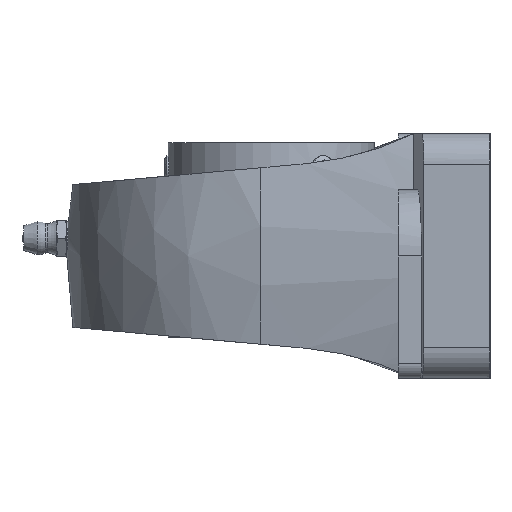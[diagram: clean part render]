
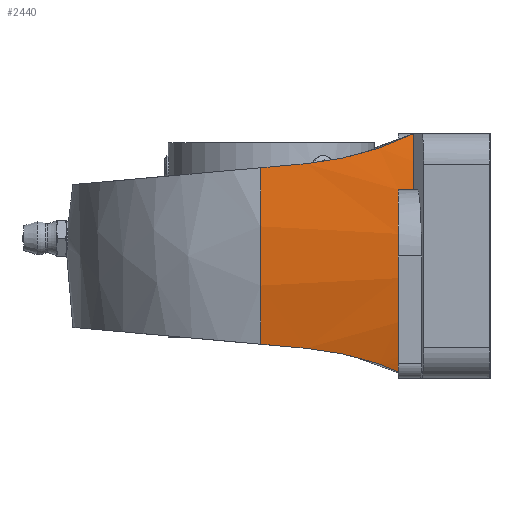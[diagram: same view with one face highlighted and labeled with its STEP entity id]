
A CAD part, left-side view. The second image highlights one B-rep face of the part: STEP entity #2440.
In plain terms, the highlighted cylindrical face has radius 83 mm (diameter 166 mm), a partial arc.
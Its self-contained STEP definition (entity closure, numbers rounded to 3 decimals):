
#83=ELLIPSE('',#2663,83.12,83.);
#94=ELLIPSE('',#2698,929.281,83.);
#97=ELLIPSE('',#2703,929.281,83.);
#100=ELLIPSE('',#2714,83.12,83.);
#101=ELLIPSE('',#2716,83.12,83.);
#128=B_SPLINE_CURVE_WITH_KNOTS('',3,(#4615,#4616,#4617,#4618,#4619,#4620,
#4621,#4622,#4623,#4624),.UNSPECIFIED.,.F.,.F.,(4,2,2,2,4),(3.804,
4.041,4.824,5.606,5.864),
 .UNSPECIFIED.);
#131=B_SPLINE_CURVE_WITH_KNOTS('',3,(#4783,#4784,#4785,#4786,#4787,#4788,
#4789,#4790,#4791,#4792),.UNSPECIFIED.,.F.,.F.,(4,2,2,2,4),(6.061,
6.318,7.101,7.883,8.12),
 .UNSPECIFIED.);
#173=CYLINDRICAL_SURFACE('',#2713,83.);
#270=FACE_OUTER_BOUND('',#410,.T.);
#410=EDGE_LOOP('',(#1892,#1893,#1894,#1895,#1896,#1897,#1898,#1899,#1900,
#1901));
#585=LINE('',#4708,#751);
#600=LINE('',#4843,#766);
#751=VECTOR('',#3136,10.);
#766=VECTOR('',#3197,10.);
#864=CIRCLE('',#2715,83.);
#973=VERTEX_POINT('',#3661);
#979=VERTEX_POINT('',#3681);
#1019=VERTEX_POINT('',#4613);
#1026=VERTEX_POINT('',#4641);
#1027=VERTEX_POINT('',#4643);
#1050=VERTEX_POINT('',#4707);
#1057=VERTEX_POINT('',#4739);
#1058=VERTEX_POINT('',#4741);
#1063=VERTEX_POINT('',#4815);
#1065=VERTEX_POINT('',#4841);
#1293=EDGE_CURVE('',#979,#1019,#128,.T.);
#1302=EDGE_CURVE('',#1027,#1026,#83,.T.);
#1335=EDGE_CURVE('',#1050,#1027,#585,.T.);
#1352=EDGE_CURVE('',#1058,#1057,#94,.T.);
#1356=EDGE_CURVE('',#1057,#973,#131,.T.);
#1360=EDGE_CURVE('',#1019,#1063,#97,.T.);
#1364=EDGE_CURVE('',#1026,#1065,#600,.T.);
#1371=EDGE_CURVE('',#1065,#979,#100,.T.);
#1372=EDGE_CURVE('',#1058,#1063,#864,.T.);
#1373=EDGE_CURVE('',#973,#1050,#101,.T.);
#1892=ORIENTED_EDGE('',*,*,#1335,.T.);
#1893=ORIENTED_EDGE('',*,*,#1302,.T.);
#1894=ORIENTED_EDGE('',*,*,#1364,.T.);
#1895=ORIENTED_EDGE('',*,*,#1371,.T.);
#1896=ORIENTED_EDGE('',*,*,#1293,.T.);
#1897=ORIENTED_EDGE('',*,*,#1360,.T.);
#1898=ORIENTED_EDGE('',*,*,#1372,.F.);
#1899=ORIENTED_EDGE('',*,*,#1352,.T.);
#1900=ORIENTED_EDGE('',*,*,#1356,.T.);
#1901=ORIENTED_EDGE('',*,*,#1373,.T.);
#2440=ADVANCED_FACE('',(#270),#173,.T.);
#2663=AXIS2_PLACEMENT_3D('',#4644,#3074,#3075);
#2698=AXIS2_PLACEMENT_3D('',#4742,#3176,#3177);
#2703=AXIS2_PLACEMENT_3D('',#4834,#3186,#3187);
#2713=AXIS2_PLACEMENT_3D('',#4855,#3214,#3215);
#2714=AXIS2_PLACEMENT_3D('',#4856,#3216,#3217);
#2715=AXIS2_PLACEMENT_3D('',#4857,#3218,#3219);
#2716=AXIS2_PLACEMENT_3D('',#4858,#3220,#3221);
#3074=DIRECTION('center_axis',(0.,1.,0.));
#3075=DIRECTION('ref_axis',(1.,0.,0.));
#3136=DIRECTION('',(0.054,0.999,0.));
#3176=DIRECTION('center_axis',(0.,-0.089,0.996));
#3177=DIRECTION('ref_axis',(0.054,0.995,0.089));
#3186=DIRECTION('center_axis',(0.,-0.089,-0.996));
#3187=DIRECTION('ref_axis',(-0.054,-0.995,0.089));
#3197=DIRECTION('',(-0.054,-0.999,0.));
#3214=DIRECTION('center_axis',(-0.054,-0.999,0.));
#3215=DIRECTION('ref_axis',(0.956,-0.052,0.289));
#3216=DIRECTION('center_axis',(0.,1.,0.));
#3217=DIRECTION('ref_axis',(1.,0.,0.));
#3218=DIRECTION('center_axis',(0.054,0.999,0.));
#3219=DIRECTION('ref_axis',(0.956,-0.052,0.289));
#3220=DIRECTION('center_axis',(0.,1.,0.));
#3221=DIRECTION('ref_axis',(1.,0.,0.));
#3661=CARTESIAN_POINT('',(-38.111,-27.9,-24.));
#3681=CARTESIAN_POINT('',(-38.111,-27.9,24.));
#4613=CARTESIAN_POINT('',(-38.524,-6.844,18.109));
#4615=CARTESIAN_POINT('Ctrl Pts',(-38.111,-27.9,24.));
#4616=CARTESIAN_POINT('Ctrl Pts',(-38.181,-27.161,23.637));
#4617=CARTESIAN_POINT('Ctrl Pts',(-38.243,-26.408,23.287));
#4618=CARTESIAN_POINT('Ctrl Pts',(-38.483,-23.119,21.84));
#4619=CARTESIAN_POINT('Ctrl Pts',(-38.591,-20.465,20.883));
#4620=CARTESIAN_POINT('Ctrl Pts',(-38.681,-15.048,19.356));
#4621=CARTESIAN_POINT('Ctrl Pts',(-38.664,-12.281,18.785));
#4622=CARTESIAN_POINT('Ctrl Pts',(-38.58,-8.637,18.29));
#4623=CARTESIAN_POINT('Ctrl Pts',(-38.555,-7.738,18.189));
#4624=CARTESIAN_POINT('Ctrl Pts',(-38.524,-6.844,18.109));
#4641=CARTESIAN_POINT('',(-40.474,-24.9,13.));
#4643=CARTESIAN_POINT('',(-40.474,-24.9,-13.));
#4644=CARTESIAN_POINT('Origin',(41.62,-24.9,0.));
#4707=CARTESIAN_POINT('',(-40.636,-27.9,-13.));
#4708=CARTESIAN_POINT('',(-39.019,2.103,-13.));
#4739=CARTESIAN_POINT('',(-38.524,-6.844,-18.109));
#4741=CARTESIAN_POINT('',(-38.22,2.06,-17.309));
#4742=CARTESIAN_POINT('Origin',(53.46,194.803,0.));
#4783=CARTESIAN_POINT('Ctrl Pts',(-38.524,-6.844,-18.109));
#4784=CARTESIAN_POINT('Ctrl Pts',(-38.555,-7.738,-18.189));
#4785=CARTESIAN_POINT('Ctrl Pts',(-38.58,-8.637,-18.29));
#4786=CARTESIAN_POINT('Ctrl Pts',(-38.664,-12.281,-18.785));
#4787=CARTESIAN_POINT('Ctrl Pts',(-38.681,-15.048,-19.356));
#4788=CARTESIAN_POINT('Ctrl Pts',(-38.591,-20.465,-20.883));
#4789=CARTESIAN_POINT('Ctrl Pts',(-38.483,-23.119,-21.84));
#4790=CARTESIAN_POINT('Ctrl Pts',(-38.243,-26.408,-23.287));
#4791=CARTESIAN_POINT('Ctrl Pts',(-38.181,-27.161,-23.637));
#4792=CARTESIAN_POINT('Ctrl Pts',(-38.111,-27.9,-24.));
#4815=CARTESIAN_POINT('',(-38.22,2.06,17.309));
#4834=CARTESIAN_POINT('Origin',(53.46,194.803,0.));
#4841=CARTESIAN_POINT('',(-40.636,-27.9,13.));
#4843=CARTESIAN_POINT('',(-39.019,2.103,13.));
#4855=CARTESIAN_POINT('Origin',(42.838,-2.308,0.));
#4856=CARTESIAN_POINT('Origin',(41.459,-27.9,0.));
#4857=CARTESIAN_POINT('Origin',(42.838,-2.308,0.));
#4858=CARTESIAN_POINT('Origin',(41.459,-27.9,0.));
